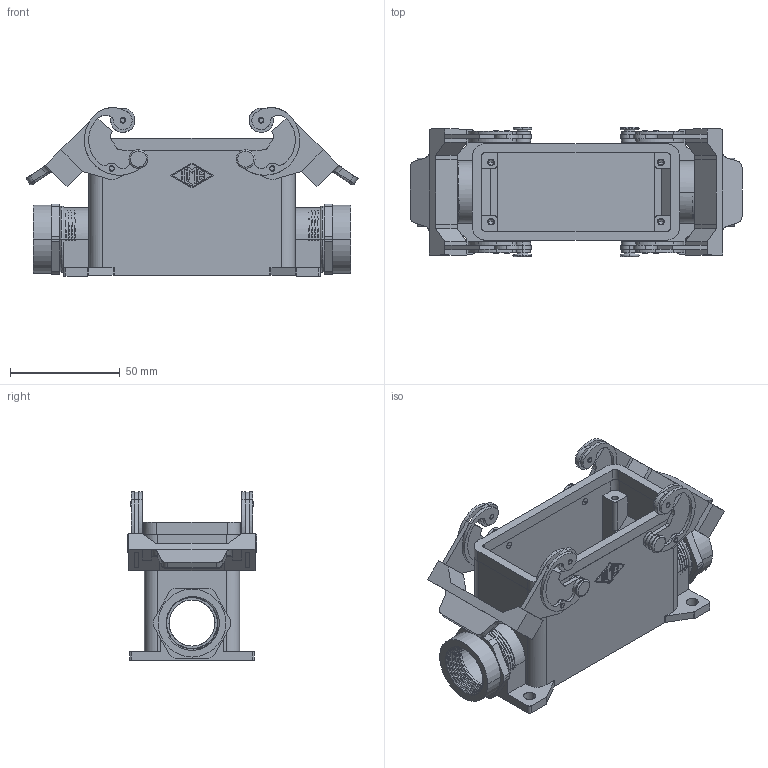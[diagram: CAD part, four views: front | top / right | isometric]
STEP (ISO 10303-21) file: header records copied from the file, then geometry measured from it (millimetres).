
FILE_DESCRIPTION (( 'STEP AP214' ), '1' );
FILE_NAME ('MHP-16.225.STEP', '2009-12-08T22:21:44', ( '' ), ( '' ), 'SwSTEP 2.0', 'SolidWorks 2009', '' );
FILE_SCHEMA (( 'AUTOMOTIVE_DESIGN' ));
Length unit declared in the file: millimetre
Products named in the file (3): MHP-16.225; PG21-M25
Assembly tree (3 placements, depth 2):
  MHP-16.225
    MHP-16.225
    PG21-M25  x2
Bounding box: 151.49 x 59 x 76.94 mm (x, y, z)
Volume: 117143.1 mm3; surface area: 72536.6 mm2
Topology: 9 solids, 9 shells, 806 faces, 2234 edges, 1496 vertices
Faces by surface type: cylinder 393, plane 308, torus 62, bspline 27, cone 16
Entity records: 41066 total; most frequent: CARTESIAN_POINT 22354, ORIENTED_EDGE 4120, DIRECTION 3078, EDGE_CURVE 2060, VERTEX_POINT 1392, AXIS2_PLACEMENT_3D 1108, LINE 862, VECTOR 862
